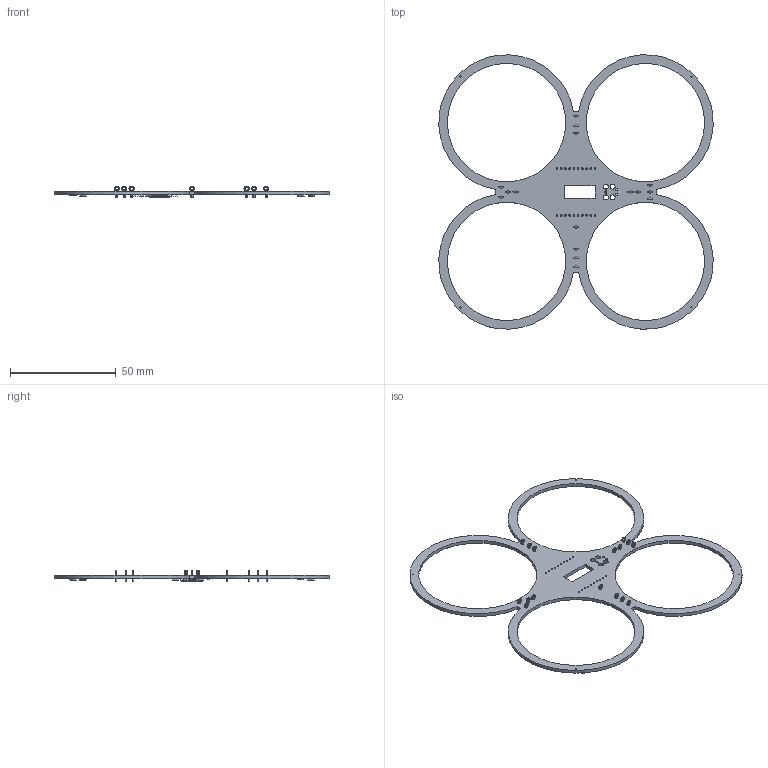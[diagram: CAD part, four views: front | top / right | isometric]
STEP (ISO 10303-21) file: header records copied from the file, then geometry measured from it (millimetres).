
FILE_DESCRIPTION(('KiCad electronic assembly'),'2;1');
FILE_NAME('audio_shield_V2.step','2020-10-14T10:15:13',('An Author'),( 'A Company'),'Open CASCADE STEP processor 6.9', 'KiCad to STEP converter','Unknown');
FILE_SCHEMA(('AUTOMOTIVE_DESIGN { 1 0 10303 214 1 1 1 1 }'));
Length unit declared in the file: millimetre
Products named in the file (12): Open CASCADE STEP translator 6.9 1; R_0603_1608Metric; SOLID; C_0603_1608Metric; TestPoint_Loop_D2.50mm_Drill1.0mm_LowProfile; LQFP-64_10x10mm_P0.5mm; L_0603_1608Metric; COMPOUND
Assembly tree (50 placements, depth 3):
  Open CASCADE STEP translator 6.9 1
    R_0603_1608Metric  x9
      SOLID
    C_0603_1608Metric  x17
      SOLID
    TestPoint_Loop_D2.50mm_Drill1.0mm_LowProfile  x16
      SOLID
    LQFP-64_10x10mm_P0.5mm
      SOLID
    L_0603_1608Metric
      SOLID
    COMPOUND
Bounding box: 129.41 x 129.41 x 5.55 mm (x, y, z)
Volume: 6714.3 mm3; surface area: 11252.4 mm2
Topology: 45 solids, 45 shells, 1923 faces, 5000 edges, 3204 vertices
Faces by surface type: plane 1143, cylinder 636, bspline 128, torus 16
Full cylindrical faces by diameter (mm): 0.5 x37, 0.8 x20, 0.991 x3, 1 x16, 2.375 x4
Entity records: 96575 total; most frequent: CARTESIAN_POINT 25856, DIRECTION 11735, LINE 7693, VECTOR 7693, ORIENTED_EDGE 6278, PCURVE 6278, DEFINITIONAL_REPRESENTATION 6278, EDGE_CURVE 3139
